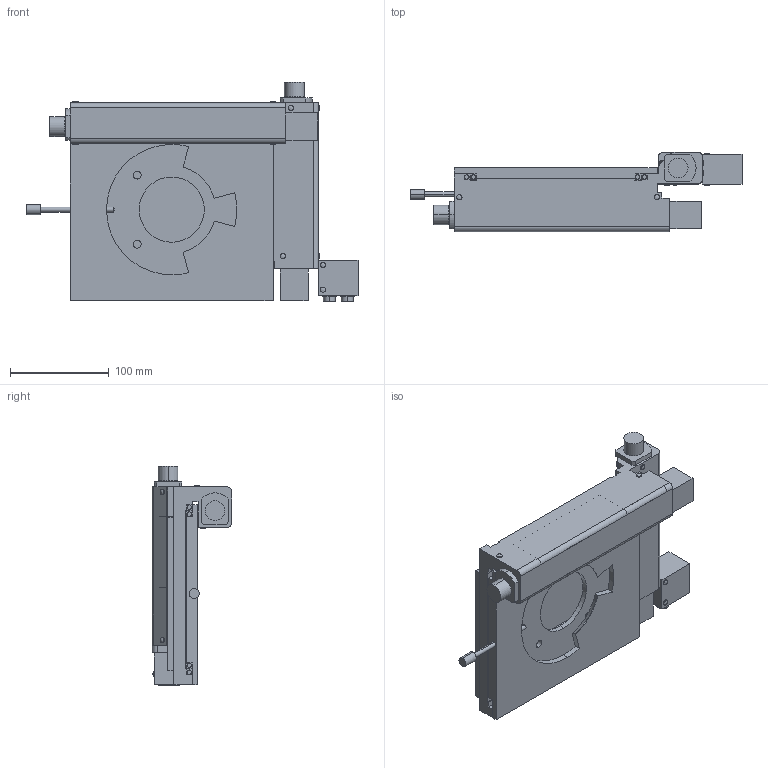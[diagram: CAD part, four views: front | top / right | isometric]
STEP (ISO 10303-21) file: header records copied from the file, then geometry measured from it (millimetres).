
FILE_DESCRIPTION (( 'STEP AP203' ), '1' );
FILE_NAME ('MSS-50WD-NA.STEP', '2023-04-21T05:43:49', ( '' ), ( '' ), 'SwSTEP 2.0', 'SolidWorks 2021', '' );
FILE_SCHEMA (( 'CONFIG_CONTROL_DESIGN' ));
Length unit declared in the file: millimetre
Products named in the file (6): MSS-50WD-NA-1; MSS-50WD-NA-3; MSS-50WD-NA-5; MSS-50WD-NA; MSS-50WD-NA-2; MSS-50WD-NA-4
Assembly tree (5 placements, depth 2):
  MSS-50WD-NA
    MSS-50WD-NA-1
    MSS-50WD-NA-2
    MSS-50WD-NA-3
    MSS-50WD-NA-4
    MSS-50WD-NA-5
Bounding box: 336 x 80.5 x 222.3 mm (x, y, z)
Volume: 1217809.4 mm3; surface area: 345928.8 mm2
Topology: 5 solids, 5 shells, 396 faces, 996 edges, 656 vertices
Faces by surface type: plane 230, cylinder 146, bspline 16, cone 4
Entity records: 15735 total; most frequent: CARTESIAN_POINT 5417, DIRECTION 2011, ORIENTED_EDGE 1988, EDGE_CURVE 994, LINE 675, VECTOR 675, AXIS2_PLACEMENT_3D 668, VERTEX_POINT 656
